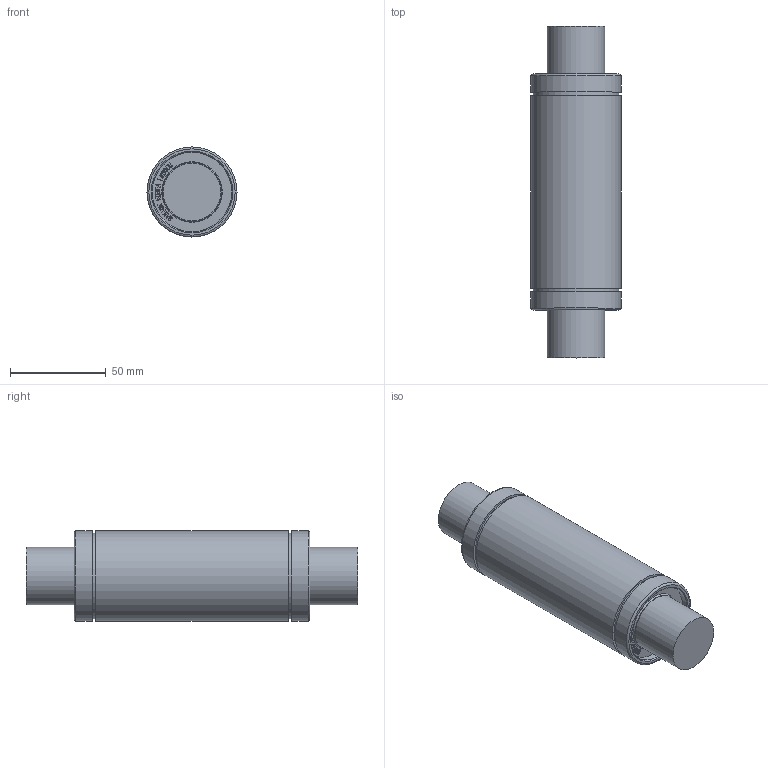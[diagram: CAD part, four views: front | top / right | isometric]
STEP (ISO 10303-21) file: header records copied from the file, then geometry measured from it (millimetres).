
FILE_DESCRIPTION(/* description */ (''),/* implementation_level */ '2;1');
FILE_NAME(/* name */ 'W:\(01) 2024년 홈페이지 CAD파일 최신화\LME_L\IPT\LME30LUU.stp',/* time_stamp */ '2025-01-25T09:35:56+09:00',/* author */ ('서우현'),/* organization */ (''),/* preprocessor_version */ 'ST-DEVELOPER v17.2',/* originating_system */ 'Autodesk Inventor 2019',/* authorisation */ '');
FILE_SCHEMA (('AUTOMOTIVE_DESIGN { 1 0 10303 214 3 1 1 }'));
Length unit declared in the file: millimetre
Products named in the file (1): LM5
Bounding box: 47 x 173 x 47 mm (x, y, z)
Volume: 243232.2 mm3; surface area: 28517.9 mm2
Topology: 1 solids, 1 shells, 851 faces, 2407 edges, 1612 vertices
Faces by surface type: bspline 616, plane 220, cylinder 9, cone 4, torus 2
Full cylindrical faces by diameter (mm): 30 x2, 41.4 x2, 44.5 x2, 47 x3
Entity records: 29147 total; most frequent: CARTESIAN_POINT 10415, ORIENTED_EDGE 4814, EDGE_CURVE 2407, DIRECTION 1701, VERTEX_POINT 1612, B_SPLINE_CURVE_WITH_KNOTS 1232, LINE 1121, VECTOR 1121
